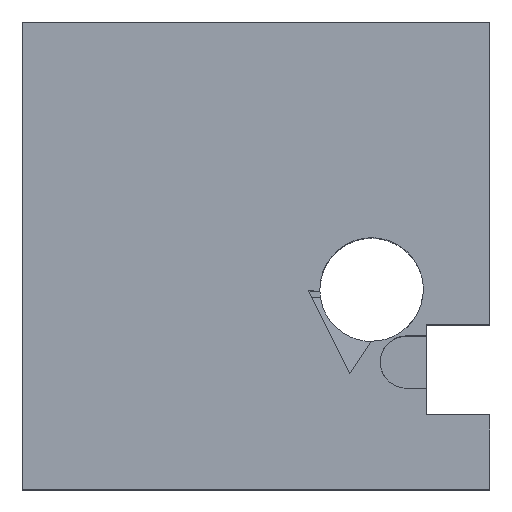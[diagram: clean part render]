
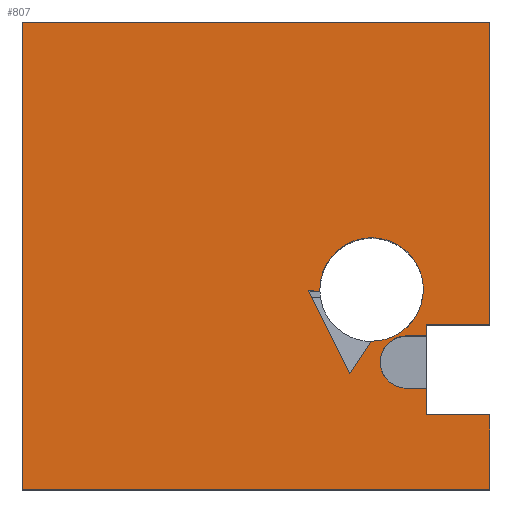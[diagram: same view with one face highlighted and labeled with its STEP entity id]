
A CAD part, top view. The second image highlights one B-rep face of the part: STEP entity #807.
In plain terms, the highlighted planar face has unit normal (0, 0, 1).
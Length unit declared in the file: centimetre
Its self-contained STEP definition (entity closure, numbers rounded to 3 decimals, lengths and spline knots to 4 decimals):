
#13 = VERTEX_POINT ( 'NONE', #591 ) ;
#20 = CARTESIAN_POINT ( 'NONE',  ( 809.9241, 414.1309, 1000. ) ) ;
#36 = DIRECTION ( 'NONE',  ( 0., 0., 1. ) ) ;
#37 = ORIENTED_EDGE ( 'NONE', *, *, #180, .T. ) ;
#67 = EDGE_CURVE ( 'NONE', #494, #842, #1407, .T. ) ;
#75 = DIRECTION ( 'NONE',  ( -1., 0., 0. ) ) ;
#84 = AXIS2_PLACEMENT_3D ( 'NONE', #138, #36, #704 ) ;
#88 = CARTESIAN_POINT ( 'NONE',  ( 0., 1000., 1000. ) ) ;
#107 = DIRECTION ( 'NONE',  ( 1., 0., 0. ) ) ;
#120 = DIRECTION ( 'NONE',  ( -1., 0., 0. ) ) ;
#124 = DIRECTION ( 'NONE',  ( 0., 1., 0. ) ) ;
#138 = CARTESIAN_POINT ( 'NONE',  ( 747.2251, 428.2104, 1000. ) ) ;
#144 = DIRECTION ( 'NONE',  ( 0., 0., 1. ) ) ;
#146 = DIRECTION ( 'NONE',  ( 0., 1., 0. ) ) ;
#158 = VECTOR ( 'NONE', #1464, 100. ) ;
#180 = EDGE_CURVE ( 'NONE', #840, #489, #872, .T. ) ;
#182 = CARTESIAN_POINT ( 'NONE',  ( 821.41, 328.9212, 1000. ) ) ;
#187 = EDGE_CURVE ( 'NONE', #982, #193, #421, .T. ) ;
#193 = VERTEX_POINT ( 'NONE', #182 ) ;
#206 = VECTOR ( 'NONE', #240, 100. ) ;
#212 = VERTEX_POINT ( 'NONE', #989 ) ;
#239 = CARTESIAN_POINT ( 'NONE',  ( 864.2535, 216.9981, 1000. ) ) ;
#240 = DIRECTION ( 'NONE',  ( 0.449, -0.894, 0. ) ) ;
#252 = DIRECTION ( 'NONE',  ( 0., -1., 0. ) ) ;
#265 = CARTESIAN_POINT ( 'NONE',  ( 857.885, 428.2104, 1000. ) ) ;
#271 = DIRECTION ( 'NONE',  ( 1., 0., 0. ) ) ;
#291 = VECTOR ( 'NONE', #124, 100. ) ;
#304 = VECTOR ( 'NONE', #1471, 100. ) ;
#340 = VECTOR ( 'NONE', #271, 100. ) ;
#341 = EDGE_CURVE ( 'NONE', #759, #1444, #762, .T. ) ;
#352 = CARTESIAN_POINT ( 'NONE',  ( 1000., 0., 1000. ) ) ;
#356 = FACE_BOUND ( 'NONE', #537, .T. ) ;
#363 = LINE ( 'NONE', #1388, #1463 ) ;
#364 = LINE ( 'NONE', #1396, #986 ) ;
#378 = VERTEX_POINT ( 'NONE', #352 ) ;
#383 = CIRCLE ( 'NONE', #84, 110.6599 ) ;
#385 = ORIENTED_EDGE ( 'NONE', *, *, #1029, .F. ) ;
#400 = ORIENTED_EDGE ( 'NONE', *, *, #783, .T. ) ;
#406 = CARTESIAN_POINT ( 'NONE',  ( 636.5652, 428.2104, 1000. ) ) ;
#409 = ORIENTED_EDGE ( 'NONE', *, *, #1061, .F. ) ;
#421 = LINE ( 'NONE', #1208, #544 ) ;
#427 = CIRCLE ( 'NONE', #1059, 55.9615 ) ;
#432 = EDGE_CURVE ( 'NONE', #378, #506, #1383, .T. ) ;
#436 = DIRECTION ( 'NONE',  ( 0., 0., 1. ) ) ;
#450 = VECTOR ( 'NONE', #617, 100. ) ;
#467 = DIRECTION ( 'NONE',  ( 0., 0., 1. ) ) ;
#482 = DIRECTION ( 'NONE',  ( 1., 0., 0. ) ) ;
#483 = ORIENTED_EDGE ( 'NONE', *, *, #341, .F. ) ;
#489 = VERTEX_POINT ( 'NONE', #841 ) ;
#494 = VERTEX_POINT ( 'NONE', #1225 ) ;
#506 = VERTEX_POINT ( 'NONE', #1196 ) ;
#537 = EDGE_LOOP ( 'NONE', ( #1199, #1382, #483, #1102, #409, #620 ) ) ;
#544 = VECTOR ( 'NONE', #75, 100. ) ;
#588 = FACE_OUTER_BOUND ( 'NONE', #959, .T. ) ;
#591 = CARTESIAN_POINT ( 'NONE',  ( 611.2849, 425.6512, 1000. ) ) ;
#594 = DIRECTION ( 'NONE',  ( 1., 0., 0. ) ) ;
#612 = AXIS2_PLACEMENT_3D ( 'NONE', #664, #436, #107 ) ;
#617 = DIRECTION ( 'NONE',  ( -1., 0., 0. ) ) ;
#620 = ORIENTED_EDGE ( 'NONE', *, *, #1431, .F. ) ;
#639 = VECTOR ( 'NONE', #1271, 100. ) ;
#660 = EDGE_CURVE ( 'NONE', #1457, #13, #1152, .T. ) ;
#664 = CARTESIAN_POINT ( 'NONE',  ( 747.2251, 428.2104, 1000. ) ) ;
#670 = ORIENTED_EDGE ( 'NONE', *, *, #432, .T. ) ;
#678 = LINE ( 'NONE', #1151, #1095 ) ;
#697 = CARTESIAN_POINT ( 'NONE',  ( 0., 0., 1000. ) ) ;
#704 = DIRECTION ( 'NONE',  ( 1., 0., 0. ) ) ;
#708 = DIRECTION ( 'NONE',  ( 1., 0., 0. ) ) ;
#710 = LINE ( 'NONE', #1389, #1183 ) ;
#724 = ORIENTED_EDGE ( 'NONE', *, *, #1423, .T. ) ;
#759 = VERTEX_POINT ( 'NONE', #265 ) ;
#762 = CIRCLE ( 'NONE', #612, 110.6599 ) ;
#764 = AXIS2_PLACEMENT_3D ( 'NONE', #697, #144, #594 ) ;
#771 = EDGE_CURVE ( 'NONE', #1444, #1457, #1438, .T. ) ;
#772 = VERTEX_POINT ( 'NONE', #819 ) ;
#781 = ORIENTED_EDGE ( 'NONE', *, *, #850, .T. ) ;
#783 = EDGE_CURVE ( 'NONE', #489, #772, #710, .T. ) ;
#785 = EDGE_CURVE ( 'NONE', #1465, #840, #364, .T. ) ;
#796 = EDGE_CURVE ( 'NONE', #1144, #759, #383, .T. ) ;
#807 = ADVANCED_FACE ( 'NONE', ( #356, #588 ), #1280, .T. ) ;
#819 = CARTESIAN_POINT ( 'NONE',  ( 0., 0., 1000. ) ) ;
#822 = LINE ( 'NONE', #1172, #1112 ) ;
#824 = DIRECTION ( 'NONE',  ( 1., 0., 0. ) ) ;
#840 = VERTEX_POINT ( 'NONE', #937 ) ;
#841 = CARTESIAN_POINT ( 'NONE',  ( 0., 1000., 1000. ) ) ;
#842 = VERTEX_POINT ( 'NONE', #239 ) ;
#850 = EDGE_CURVE ( 'NONE', #772, #378, #822, .T. ) ;
#872 = LINE ( 'NONE', #88, #450 ) ;
#881 = CARTESIAN_POINT ( 'NONE',  ( 1000., 353.3682, 1000. ) ) ;
#892 = ORIENTED_EDGE ( 'NONE', *, *, #1330, .T. ) ;
#931 = CARTESIAN_POINT ( 'NONE',  ( 821.41, 272.9596, 1000. ) ) ;
#933 = CARTESIAN_POINT ( 'NONE',  ( 747.2251, 428.2104, 1000. ) ) ;
#937 = CARTESIAN_POINT ( 'NONE',  ( 1000., 1000., 1000. ) ) ;
#938 = CARTESIAN_POINT ( 'NONE',  ( 864.2535, 328.9212, 1000. ) ) ;
#939 = DIRECTION ( 'NONE',  ( 0., 0., 1. ) ) ;
#946 = LINE ( 'NONE', #1064, #340 ) ;
#959 = EDGE_LOOP ( 'NONE', ( #1204, #892, #1368, #984, #37, #400, #781, #670, #724, #974, #385, #1036 ) ) ;
#974 = ORIENTED_EDGE ( 'NONE', *, *, #67, .T. ) ;
#982 = VERTEX_POINT ( 'NONE', #938 ) ;
#984 = ORIENTED_EDGE ( 'NONE', *, *, #785, .T. ) ;
#986 = VECTOR ( 'NONE', #1401, 100. ) ;
#989 = CARTESIAN_POINT ( 'NONE',  ( 821.41, 216.9981, 1000. ) ) ;
#1018 = CARTESIAN_POINT ( 'NONE',  ( 864.2535, 160.2011, 1000. ) ) ;
#1025 = LINE ( 'NONE', #1222, #158 ) ;
#1029 = EDGE_CURVE ( 'NONE', #212, #842, #946, .T. ) ;
#1036 = ORIENTED_EDGE ( 'NONE', *, *, #1048, .F. ) ;
#1048 = EDGE_CURVE ( 'NONE', #193, #212, #427, .T. ) ;
#1059 = AXIS2_PLACEMENT_3D ( 'NONE', #931, #467, #824 ) ;
#1061 = EDGE_CURVE ( 'NONE', #1240, #1144, #363, .T. ) ;
#1064 = CARTESIAN_POINT ( 'NONE',  ( 821.41, 216.9981, 1000. ) ) ;
#1076 = VECTOR ( 'NONE', #146, 100. ) ;
#1084 = VERTEX_POINT ( 'NONE', #1193 ) ;
#1095 = VECTOR ( 'NONE', #120, 100. ) ;
#1102 = ORIENTED_EDGE ( 'NONE', *, *, #796, .F. ) ;
#1103 = CARTESIAN_POINT ( 'NONE',  ( 746.4381, 317.5533, 1000. ) ) ;
#1112 = VECTOR ( 'NONE', #708, 100. ) ;
#1144 = VERTEX_POINT ( 'NONE', #1103 ) ;
#1151 = CARTESIAN_POINT ( 'NONE',  ( 864.2535, 160.2011, 1000. ) ) ;
#1152 = LINE ( 'NONE', #20, #639 ) ;
#1172 = CARTESIAN_POINT ( 'NONE',  ( 0., 0., 1000. ) ) ;
#1183 = VECTOR ( 'NONE', #252, 100. ) ;
#1193 = CARTESIAN_POINT ( 'NONE',  ( 864.2535, 353.3682, 1000. ) ) ;
#1196 = CARTESIAN_POINT ( 'NONE',  ( 1000., 160.2011, 1000. ) ) ;
#1199 = ORIENTED_EDGE ( 'NONE', *, *, #660, .F. ) ;
#1204 = ORIENTED_EDGE ( 'NONE', *, *, #187, .F. ) ;
#1208 = CARTESIAN_POINT ( 'NONE',  ( 1000., 328.9212, 1000. ) ) ;
#1222 = CARTESIAN_POINT ( 'NONE',  ( 864.2535, 353.3682, 1000. ) ) ;
#1225 = CARTESIAN_POINT ( 'NONE',  ( 864.2535, 160.2011, 1000. ) ) ;
#1238 = EDGE_CURVE ( 'NONE', #1084, #1465, #1025, .T. ) ;
#1240 = VERTEX_POINT ( 'NONE', #1364 ) ;
#1253 = CARTESIAN_POINT ( 'NONE',  ( 1000., 1000., 1000. ) ) ;
#1269 = CARTESIAN_POINT ( 'NONE',  ( 611.2849, 425.6512, 1000. ) ) ;
#1271 = DIRECTION ( 'NONE',  ( -0.998, 0.058, 0. ) ) ;
#1280 = PLANE ( 'NONE',  #764 ) ;
#1288 = CARTESIAN_POINT ( 'NONE',  ( 864.2535, 160.2011, 1000. ) ) ;
#1292 = DIRECTION ( 'NONE',  ( 0.549, 0.836, 0. ) ) ;
#1301 = AXIS2_PLACEMENT_3D ( 'NONE', #933, #939, #482 ) ;
#1319 = CARTESIAN_POINT ( 'NONE',  ( 636.6386, 424.1808, 1000. ) ) ;
#1330 = EDGE_CURVE ( 'NONE', #982, #1084, #1355, .T. ) ;
#1355 = LINE ( 'NONE', #1018, #304 ) ;
#1364 = CARTESIAN_POINT ( 'NONE',  ( 700.6277, 247.8645, 1000. ) ) ;
#1368 = ORIENTED_EDGE ( 'NONE', *, *, #1238, .T. ) ;
#1378 = LINE ( 'NONE', #1269, #206 ) ;
#1382 = ORIENTED_EDGE ( 'NONE', *, *, #771, .F. ) ;
#1383 = LINE ( 'NONE', #1253, #291 ) ;
#1388 = CARTESIAN_POINT ( 'NONE',  ( 700.6277, 247.8645, 1000. ) ) ;
#1389 = CARTESIAN_POINT ( 'NONE',  ( 0., 1000., 1000. ) ) ;
#1396 = CARTESIAN_POINT ( 'NONE',  ( 1000., 1000., 1000. ) ) ;
#1401 = DIRECTION ( 'NONE',  ( 0., 1., 0. ) ) ;
#1407 = LINE ( 'NONE', #1288, #1076 ) ;
#1423 = EDGE_CURVE ( 'NONE', #506, #494, #678, .T. ) ;
#1431 = EDGE_CURVE ( 'NONE', #13, #1240, #1378, .T. ) ;
#1438 = CIRCLE ( 'NONE', #1301, 110.6599 ) ;
#1444 = VERTEX_POINT ( 'NONE', #406 ) ;
#1457 = VERTEX_POINT ( 'NONE', #1319 ) ;
#1463 = VECTOR ( 'NONE', #1292, 100. ) ;
#1464 = DIRECTION ( 'NONE',  ( 1., 0., 0. ) ) ;
#1465 = VERTEX_POINT ( 'NONE', #881 ) ;
#1471 = DIRECTION ( 'NONE',  ( 0., 1., 0. ) ) ;
